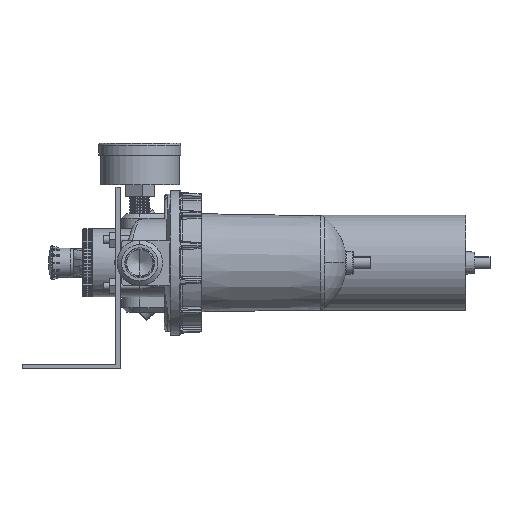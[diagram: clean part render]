
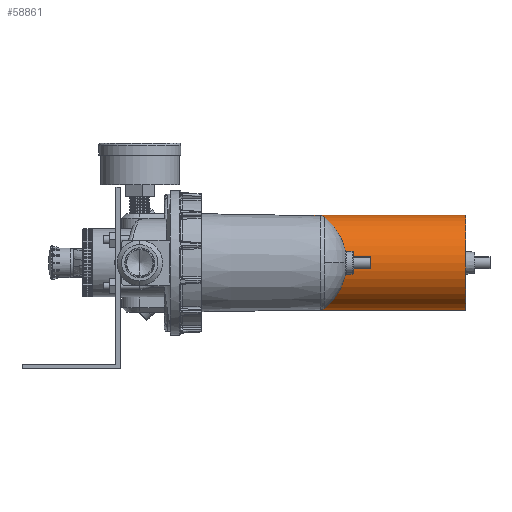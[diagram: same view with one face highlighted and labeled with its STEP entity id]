
A CAD part, left-side view. The second image highlights one B-rep face of the part: STEP entity #58861.
In plain terms, the highlighted cylindrical face has radius 31.5 mm (diameter 63 mm), a partial arc.
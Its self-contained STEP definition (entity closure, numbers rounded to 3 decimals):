
#3809 = CIRCLE ( 'NONE', #11162, 31.5 ) ;
#7038 = DIRECTION ( 'NONE',  ( 0., -1., 0. ) ) ;
#9245 = CARTESIAN_POINT ( 'NONE',  ( 0., 174.5, 31.5 ) ) ;
#11162 = AXIS2_PLACEMENT_3D ( 'NONE', #23998, #43999, #19778 ) ;
#11290 = CARTESIAN_POINT ( 'NONE',  ( 0., 174.5, 0. ) ) ;
#11565 = DIRECTION ( 'NONE',  ( 0., -1., 0. ) ) ;
#12796 = VERTEX_POINT ( 'NONE', #9245 ) ;
#16765 = DIRECTION ( 'NONE',  ( 0., -1., 0. ) ) ;
#17063 = AXIS2_PLACEMENT_3D ( 'NONE', #11290, #7038, #42015 ) ;
#18233 = VERTEX_POINT ( 'NONE', #28458 ) ;
#19568 = ORIENTED_EDGE ( 'NONE', *, *, #53484, .T. ) ;
#19778 = DIRECTION ( 'NONE',  ( 0., 0., 1. ) ) ;
#23984 = EDGE_LOOP ( 'NONE', ( #47329, #62095, #19568, #59157 ) ) ;
#23998 = CARTESIAN_POINT ( 'NONE',  ( 0., 0., 0. ) ) ;
#26260 = CARTESIAN_POINT ( 'NONE',  ( 0., 174.5, 31.5 ) ) ;
#26599 = EDGE_CURVE ( 'NONE', #54405, #12796, #39687, .T. ) ;
#28458 = CARTESIAN_POINT ( 'NONE',  ( 0., 0., 31.5 ) ) ;
#30817 = VECTOR ( 'NONE', #11565, 1000. ) ;
#32341 = LINE ( 'NONE', #55610, #30817 ) ;
#39687 = CIRCLE ( 'NONE', #54896, 31.5 ) ;
#41927 = FACE_OUTER_BOUND ( 'NONE', #23984, .T. ) ;
#42015 = DIRECTION ( 'NONE',  ( 0., 0., -1. ) ) ;
#42582 = CARTESIAN_POINT ( 'NONE',  ( 0., 174.5, -31.5 ) ) ;
#43403 = CARTESIAN_POINT ( 'NONE',  ( 0., 174.5, 0. ) ) ;
#43999 = DIRECTION ( 'NONE',  ( 0., 1., 0. ) ) ;
#44846 = CARTESIAN_POINT ( 'NONE',  ( 0., 0., -31.5 ) ) ;
#45019 = VECTOR ( 'NONE', #16765, 1000. ) ;
#47329 = ORIENTED_EDGE ( 'NONE', *, *, #52299, .F. ) ;
#49556 = LINE ( 'NONE', #26260, #45019 ) ;
#52299 = EDGE_CURVE ( 'NONE', #12796, #18233, #49556, .T. ) ;
#53122 = DIRECTION ( 'NONE',  ( 0., 0., 1. ) ) ;
#53484 = EDGE_CURVE ( 'NONE', #54405, #61669, #32341, .T. ) ;
#54405 = VERTEX_POINT ( 'NONE', #42582 ) ;
#54896 = AXIS2_PLACEMENT_3D ( 'NONE', #43403, #62804, #53122 ) ;
#55610 = CARTESIAN_POINT ( 'NONE',  ( 0., 174.5, -31.5 ) ) ;
#57089 = CYLINDRICAL_SURFACE ( 'NONE', #17063, 31.5 ) ;
#58861 = ADVANCED_FACE ( 'NONE', ( #41927 ), #57089, .T. ) ;
#59157 = ORIENTED_EDGE ( 'NONE', *, *, #61599, .T. ) ;
#61599 = EDGE_CURVE ( 'NONE', #61669, #18233, #3809, .T. ) ;
#61669 = VERTEX_POINT ( 'NONE', #44846 ) ;
#62095 = ORIENTED_EDGE ( 'NONE', *, *, #26599, .F. ) ;
#62804 = DIRECTION ( 'NONE',  ( 0., 1., 0. ) ) ;
